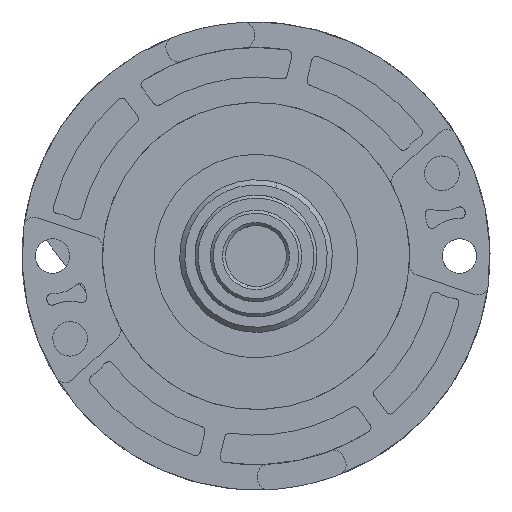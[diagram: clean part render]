
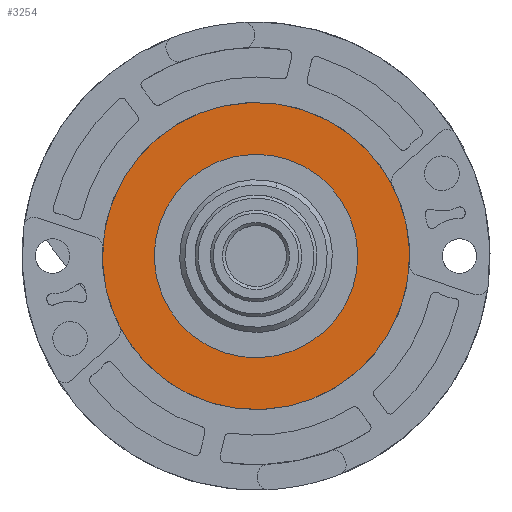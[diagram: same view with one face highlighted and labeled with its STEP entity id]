
A CAD part, front view. The second image highlights one B-rep face of the part: STEP entity #3254.
In plain terms, the highlighted planar face has unit normal (0, -1, 0).
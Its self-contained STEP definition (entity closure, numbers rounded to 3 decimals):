
#365 = ORIENTED_EDGE ( 'NONE', *, *, #8108, .T. ) ;
#490 = CARTESIAN_POINT ( 'NONE',  ( 2.079, -7.1, -9.781 ) ) ;
#561 = DIRECTION ( 'NONE',  ( 0.208, 0., -0.978 ) ) ;
#629 = CARTESIAN_POINT ( 'NONE',  ( 0., -7.1, 0. ) ) ;
#945 = DIRECTION ( 'NONE',  ( 0., -1., 0. ) ) ;
#1036 = CIRCLE ( 'NONE', #8003, 10. ) ;
#1094 = CARTESIAN_POINT ( 'NONE',  ( -3.139, -7.1, 14.77 ) ) ;
#2040 = CARTESIAN_POINT ( 'NONE',  ( 0., -7.1, 0. ) ) ;
#2123 = EDGE_LOOP ( 'NONE', ( #16855, #10050 ) ) ;
#3254 = ADVANCED_FACE ( 'NONE', ( #11576, #6357 ), #3773, .T. ) ;
#3273 = CARTESIAN_POINT ( 'NONE',  ( 3.139, -7.1, -14.77 ) ) ;
#3773 = PLANE ( 'NONE',  #6245 ) ;
#4070 = DIRECTION ( 'NONE',  ( 0.208, 0., -0.978 ) ) ;
#5022 = CIRCLE ( 'NONE', #14615, 10. ) ;
#6245 = AXIS2_PLACEMENT_3D ( 'NONE', #14573, #16370, #4070 ) ;
#6357 = FACE_OUTER_BOUND ( 'NONE', #13235, .T. ) ;
#6731 = AXIS2_PLACEMENT_3D ( 'NONE', #9685, #945, #22001 ) ;
#6789 = EDGE_CURVE ( 'NONE', #9858, #19425, #12387, .T. ) ;
#7353 = DIRECTION ( 'NONE',  ( 0., -1., 0. ) ) ;
#8003 = AXIS2_PLACEMENT_3D ( 'NONE', #2040, #7353, #19577 ) ;
#8108 = EDGE_CURVE ( 'NONE', #19425, #9858, #17573, .T. ) ;
#8465 = DIRECTION ( 'NONE',  ( 0., -1., 0. ) ) ;
#9022 = EDGE_CURVE ( 'NONE', #19763, #19913, #1036, .T. ) ;
#9436 = ORIENTED_EDGE ( 'NONE', *, *, #6789, .T. ) ;
#9685 = CARTESIAN_POINT ( 'NONE',  ( 0., -7.1, 0. ) ) ;
#9858 = VERTEX_POINT ( 'NONE', #3273 ) ;
#10012 = CARTESIAN_POINT ( 'NONE',  ( 0., -7.1, 0. ) ) ;
#10050 = ORIENTED_EDGE ( 'NONE', *, *, #14849, .F. ) ;
#11576 = FACE_BOUND ( 'NONE', #2123, .T. ) ;
#12387 = CIRCLE ( 'NONE', #6731, 15.1 ) ;
#13235 = EDGE_LOOP ( 'NONE', ( #9436, #365 ) ) ;
#14573 = CARTESIAN_POINT ( 'NONE',  ( 0., -7.1, 0. ) ) ;
#14615 = AXIS2_PLACEMENT_3D ( 'NONE', #10012, #8465, #22243 ) ;
#14849 = EDGE_CURVE ( 'NONE', #19913, #19763, #5022, .T. ) ;
#16061 = AXIS2_PLACEMENT_3D ( 'NONE', #629, #18186, #561 ) ;
#16370 = DIRECTION ( 'NONE',  ( 0., -1., 0. ) ) ;
#16855 = ORIENTED_EDGE ( 'NONE', *, *, #9022, .F. ) ;
#17573 = CIRCLE ( 'NONE', #16061, 15.1 ) ;
#18186 = DIRECTION ( 'NONE',  ( 0., -1., 0. ) ) ;
#19425 = VERTEX_POINT ( 'NONE', #1094 ) ;
#19577 = DIRECTION ( 'NONE',  ( 0.208, 0., -0.978 ) ) ;
#19763 = VERTEX_POINT ( 'NONE', #490 ) ;
#19913 = VERTEX_POINT ( 'NONE', #20289 ) ;
#20289 = CARTESIAN_POINT ( 'NONE',  ( -2.079, -7.1, 9.781 ) ) ;
#22001 = DIRECTION ( 'NONE',  ( 0.208, 0., -0.978 ) ) ;
#22243 = DIRECTION ( 'NONE',  ( 0.208, 0., -0.978 ) ) ;
